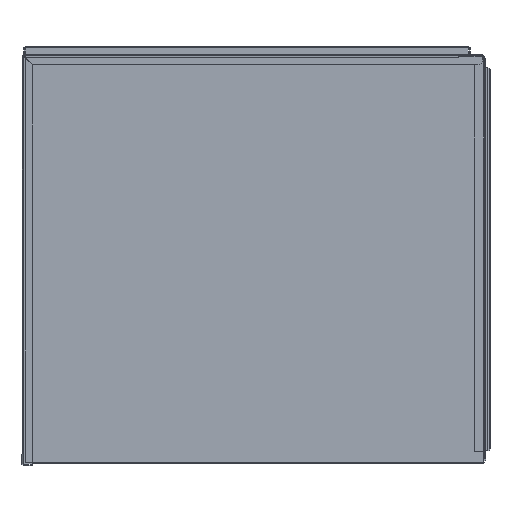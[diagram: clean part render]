
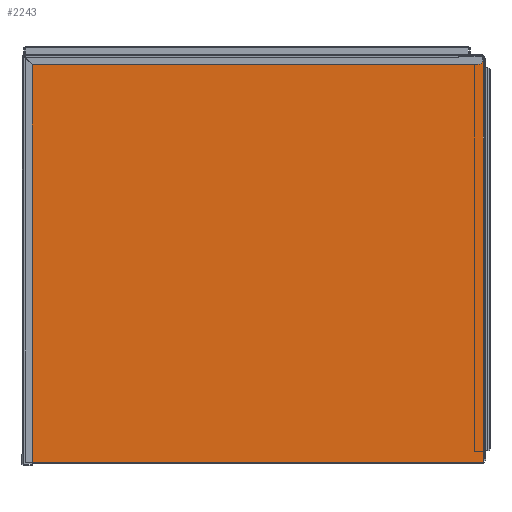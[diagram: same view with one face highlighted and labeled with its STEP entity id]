
A CAD part, left-side view. The second image highlights one B-rep face of the part: STEP entity #2243.
In plain terms, the highlighted planar face has unit normal (-1, 0, 0).
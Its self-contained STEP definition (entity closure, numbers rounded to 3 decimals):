
#2243=ADVANCED_FACE('',(#3808),#28336,.T.);
#3808=FACE_OUTER_BOUND('',#6013,.T.);
#6013=EDGE_LOOP('',(#14902,#14903,#14904,#14905,#14906,#14907,#14908));
#14902=ORIENTED_EDGE('',*,*,#19329,.F.);
#14903=ORIENTED_EDGE('',*,*,#19299,.F.);
#14904=ORIENTED_EDGE('',*,*,#19330,.F.);
#14905=ORIENTED_EDGE('',*,*,#19331,.F.);
#14906=ORIENTED_EDGE('',*,*,#19332,.F.);
#14907=ORIENTED_EDGE('',*,*,#19333,.F.);
#14908=ORIENTED_EDGE('',*,*,#19328,.F.);
#19299=EDGE_CURVE('',#26735,#26734,#23763,.T.);
#19328=EDGE_CURVE('',#26748,#26749,#23792,.T.);
#19329=EDGE_CURVE('',#26734,#26748,#23793,.T.);
#19330=EDGE_CURVE('',#26750,#26735,#23794,.T.);
#19331=EDGE_CURVE('',#26751,#26750,#23795,.T.);
#19332=EDGE_CURVE('',#26752,#26751,#23796,.T.);
#19333=EDGE_CURVE('',#26749,#26752,#23797,.T.);
#23763=B_SPLINE_CURVE_WITH_KNOTS('',3,(#50265,#50266,#50267,#50268),
 .UNSPECIFIED.,.F.,.F.,(4,4),(0.,449.45),.UNSPECIFIED.);
#23792=B_SPLINE_CURVE_WITH_KNOTS('',3,(#50413,#50414,#50415,#50416),
 .UNSPECIFIED.,.F.,.F.,(4,4),(-425.,0.),.UNSPECIFIED.);
#23793=B_SPLINE_CURVE_WITH_KNOTS('',3,(#50417,#50418,#50419,#50420),
 .UNSPECIFIED.,.F.,.F.,(4,4),(-397.,0.),.UNSPECIFIED.);
#23794=B_SPLINE_CURVE_WITH_KNOTS('',3,(#50421,#50422,#50423,#50424),
 .UNSPECIFIED.,.F.,.F.,(4,4),(-10.7,0.),.UNSPECIFIED.);
#23795=B_SPLINE_CURVE_WITH_KNOTS('',3,(#50425,#50426,#50427,#50428),
 .UNSPECIFIED.,.F.,.F.,(4,4),(-386.8,0.),.UNSPECIFIED.);
#23796=B_SPLINE_CURVE_WITH_KNOTS('',3,(#50429,#50430,#50431,#50432),
 .UNSPECIFIED.,.F.,.F.,(4,4),(-24.45,0.),.UNSPECIFIED.);
#23797=B_SPLINE_CURVE_WITH_KNOTS('',3,(#50433,#50434,#50435,#50436),
 .UNSPECIFIED.,.F.,.F.,(4,4),(-0.5,0.),.UNSPECIFIED.);
#26734=VERTEX_POINT('',#49656);
#26735=VERTEX_POINT('',#49657);
#26748=VERTEX_POINT('',#49670);
#26749=VERTEX_POINT('',#49671);
#26750=VERTEX_POINT('',#49672);
#26751=VERTEX_POINT('',#49673);
#26752=VERTEX_POINT('',#49674);
#28336=PLANE('',#29882);
#29882=AXIS2_PLACEMENT_3D('',#49583,#31412,$);
#31412=DIRECTION('',(-1.,0.,0.));
#49583=CARTESIAN_POINT('',(-285.743,-229.54,-218.136));
#49656=CARTESIAN_POINT('',(-285.743,224.405,-214.161));
#49657=CARTESIAN_POINT('',(-285.743,-225.045,-214.161));
#49670=CARTESIAN_POINT('',(-285.743,224.405,182.839));
#49671=CARTESIAN_POINT('',(-285.743,-200.595,182.839));
#49672=CARTESIAN_POINT('',(-285.743,-225.045,-203.461));
#49673=CARTESIAN_POINT('',(-285.743,-225.045,183.339));
#49674=CARTESIAN_POINT('',(-285.743,-200.595,183.339));
#50265=CARTESIAN_POINT('',(-285.743,-225.045,-214.161));
#50266=CARTESIAN_POINT('',(-285.743,-75.229,-214.161));
#50267=CARTESIAN_POINT('',(-285.743,74.588,-214.161));
#50268=CARTESIAN_POINT('',(-285.743,224.405,-214.161));
#50413=CARTESIAN_POINT('',(-285.743,224.405,182.839));
#50414=CARTESIAN_POINT('',(-285.743,82.738,182.839));
#50415=CARTESIAN_POINT('',(-285.743,-58.929,182.839));
#50416=CARTESIAN_POINT('',(-285.743,-200.595,182.839));
#50417=CARTESIAN_POINT('',(-285.743,224.405,-214.161));
#50418=CARTESIAN_POINT('',(-285.743,224.405,-81.828));
#50419=CARTESIAN_POINT('',(-285.743,224.405,50.505));
#50420=CARTESIAN_POINT('',(-285.743,224.405,182.839));
#50421=CARTESIAN_POINT('',(-285.743,-225.045,-203.461));
#50422=CARTESIAN_POINT('',(-285.743,-225.045,-207.028));
#50423=CARTESIAN_POINT('',(-285.743,-225.045,-210.595));
#50424=CARTESIAN_POINT('',(-285.743,-225.045,-214.161));
#50425=CARTESIAN_POINT('',(-285.743,-225.045,183.339));
#50426=CARTESIAN_POINT('',(-285.743,-225.045,54.405));
#50427=CARTESIAN_POINT('',(-285.743,-225.045,-74.528));
#50428=CARTESIAN_POINT('',(-285.743,-225.045,-203.461));
#50429=CARTESIAN_POINT('',(-285.743,-200.595,183.339));
#50430=CARTESIAN_POINT('',(-285.743,-208.745,183.339));
#50431=CARTESIAN_POINT('',(-285.743,-216.895,183.339));
#50432=CARTESIAN_POINT('',(-285.743,-225.045,183.339));
#50433=CARTESIAN_POINT('',(-285.743,-200.595,182.839));
#50434=CARTESIAN_POINT('',(-285.743,-200.595,183.005));
#50435=CARTESIAN_POINT('',(-285.743,-200.595,183.172));
#50436=CARTESIAN_POINT('',(-285.743,-200.595,183.339));
